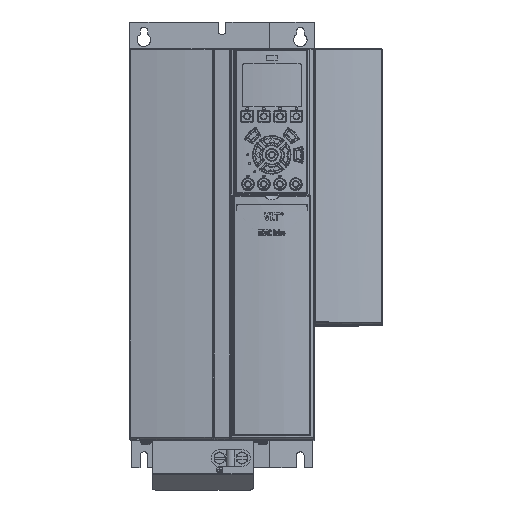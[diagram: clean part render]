
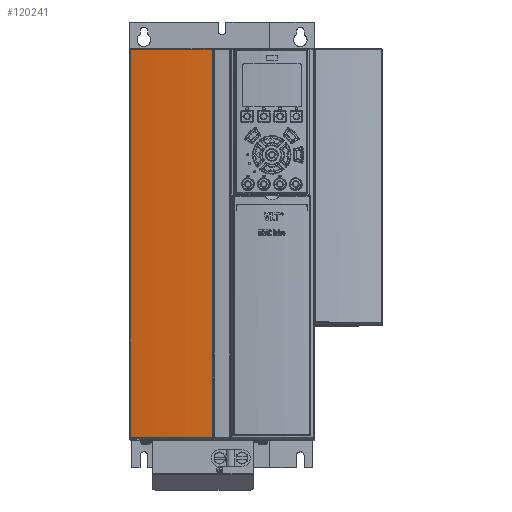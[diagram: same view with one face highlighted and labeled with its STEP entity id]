
A CAD part, top view. The second image highlights one B-rep face of the part: STEP entity #120241.
In plain terms, the highlighted cylindrical face has radius 574.02 mm (diameter 1148.04 mm), a partial arc.
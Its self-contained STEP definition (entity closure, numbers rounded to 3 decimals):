
#37720=DIRECTION('',(0.,-1.,0.));
#37721=VECTOR('',#37720,346.896);
#37722=CARTESIAN_POINT('',(-82.111,174.5,232.048));
#37723=LINE('',#37722,#37721);
#37727=CARTESIAN_POINT('',(44.923,174.5,-327.738));
#37728=DIRECTION('',(0.,1.,0.));
#37729=DIRECTION('',(-0.221,0.,0.975));
#37730=AXIS2_PLACEMENT_3D('',#37727,#37728,#37729);
#37735=DIRECTION('',(0.,1.,0.));
#37736=VECTOR('',#37735,346.896);
#37737=CARTESIAN_POINT('',(-8.928,-172.396,
243.75));
#37738=LINE('',#37737,#37736);
#37742=CARTESIAN_POINT('',(44.923,-172.396,
-327.738));
#37743=DIRECTION('',(0.,1.,0.));
#37744=DIRECTION('',(-0.221,0.,0.975));
#37745=AXIS2_PLACEMENT_3D('',#37742,#37743,#37744);
#37750=CARTESIAN_POINT('',(-82.111,-172.396,
232.048));
#37751=CARTESIAN_POINT('',(-82.108,-172.396,
232.049));
#37752=CARTESIAN_POINT('',(-82.103,-172.396,
232.05));
#37753=CARTESIAN_POINT('',(-82.097,-172.396,
232.052));
#37754=CARTESIAN_POINT('',(-82.094,-172.396,
232.052));
#37759=CARTESIAN_POINT('',(-82.111,174.5,232.048));
#37786=CARTESIAN_POINT('',(-82.111,-172.396,
232.048));
#37808=CARTESIAN_POINT('',(-8.928,174.5,
243.75));
#78306=VERTEX_POINT('',#37786);
#78308=VERTEX_POINT('',#37754);
#78354=VERTEX_POINT('',#37808);
#78358=CARTESIAN_POINT('',(-8.928,-172.396,
243.75));
#78359=VERTEX_POINT('',#78358);
#79435=VERTEX_POINT('',#37759);
#120225=CARTESIAN_POINT('',(44.923,-175.,-327.738));
#120226=DIRECTION('',(0.,1.,0.));
#120227=DIRECTION('',(0.,0.,1.));
#120228=AXIS2_PLACEMENT_3D('',#120225,#120226,#120227);
#120229=CYLINDRICAL_SURFACE('',#120228,574.02);
#120231=ORIENTED_EDGE('',*,*,#120230,.F.);
#120233=ORIENTED_EDGE('',*,*,#120232,.T.);
#120234=ORIENTED_EDGE('',*,*,#120215,.F.);
#120236=ORIENTED_EDGE('',*,*,#120235,.F.);
#120238=ORIENTED_EDGE('',*,*,#120237,.F.);
#120239=EDGE_LOOP('',(#120231,#120233,#120234,#120236,#120238));
#120240=FACE_OUTER_BOUND('',#120239,.F.);
#120241=ADVANCED_FACE('',(#120240),#120229,.T.);
#37731=CIRCLE('',#37730,574.02);
#37746=CIRCLE('',#37745,574.02);
#37755=B_SPLINE_CURVE_WITH_KNOTS('',3,(#37750,#37751,#37752,#37753,#37754),
.UNSPECIFIED.,.F.,.F.,(4,1,4),(0.,0.5,1.),.UNSPECIFIED.);
#120215=EDGE_CURVE('',#78359,#78354,#37738,.T.);
#120230=EDGE_CURVE('',#79435,#78306,#37723,.T.);
#120232=EDGE_CURVE('',#79435,#78354,#37731,.T.);
#120235=EDGE_CURVE('',#78308,#78359,#37746,.T.);
#120237=EDGE_CURVE('',#78306,#78308,#37755,.T.);
